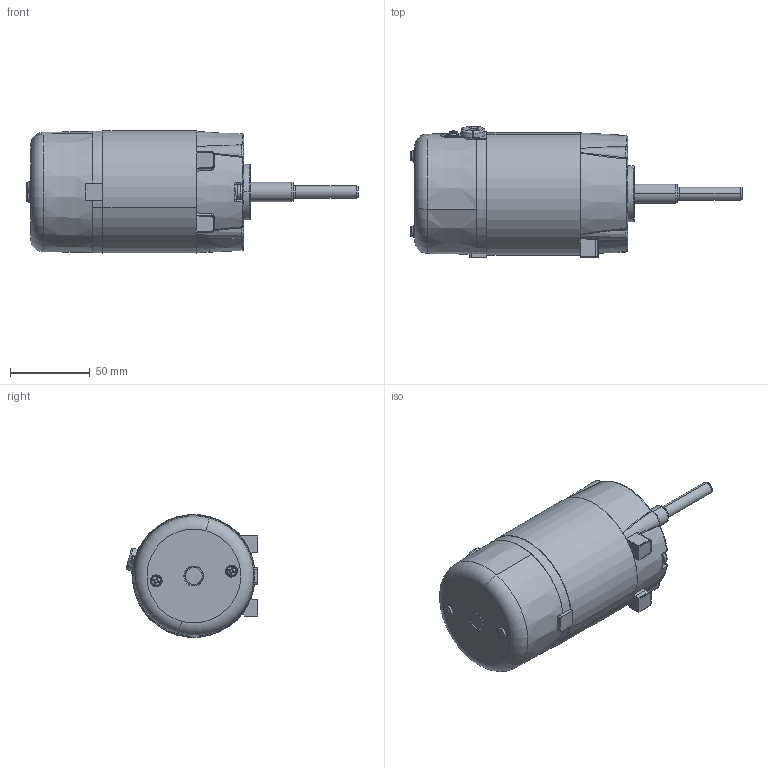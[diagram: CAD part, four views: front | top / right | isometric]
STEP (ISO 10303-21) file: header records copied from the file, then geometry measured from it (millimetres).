
FILE_DESCRIPTION (( 'STEP AP214' ), '1' );
FILE_NAME ('PM3.STEP', '2021-07-05T09:00:57', ( '' ), ( '' ), 'SwSTEP 2.0', 'SolidWorks 2020', '' );
FILE_SCHEMA (( 'AUTOMOTIVE_DESIGN' ));
Length unit declared in the file: millimetre
Products named in the file (1): PM3
Bounding box: 207.82 x 82.25 x 76.72 mm (x, y, z)
Surface area: 50343.2 mm2 (no closed solid volume)
Topology: 0 solids, 29 shells, 516 faces, 1614 edges, 1101 vertices
Faces by surface type: cone 147, cylinder 132, plane 121, torus 64, bspline 38, sphere 14
Entity records: 28143 total; most frequent: CARTESIAN_POINT 8563, DIRECTION 2963, ORIENTED_EDGE 2761, EDGE_CURVE 1600, AXIS2_PLACEMENT_3D 1252, VERTEX_POINT 1101, CIRCLE 773, EDGE_LOOP 555
